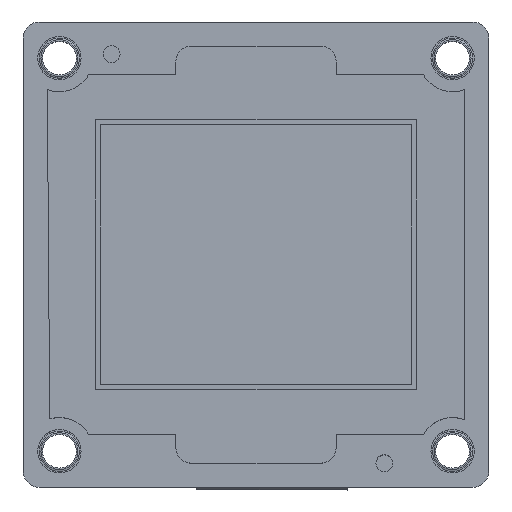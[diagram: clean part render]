
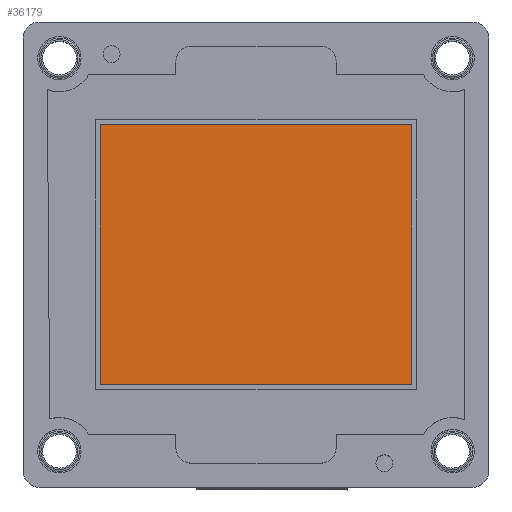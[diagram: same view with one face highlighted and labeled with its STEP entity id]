
A CAD part, top view. The second image highlights one B-rep face of the part: STEP entity #36179.
In plain terms, the highlighted planar face has unit normal (0, 0, 1).
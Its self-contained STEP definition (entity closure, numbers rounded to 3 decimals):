
#3712 = LINE ( 'NONE', #41200, #39362 ) ;
#3973 = DIRECTION ( 'NONE',  ( -1., 0., 0. ) ) ;
#3987 = LINE ( 'NONE', #20370, #8109 ) ;
#4184 = LINE ( 'NONE', #4425, #41056 ) ;
#4425 = CARTESIAN_POINT ( 'NONE',  ( 4.8, 22.6, 7.31 ) ) ;
#7489 = ORIENTED_EDGE ( 'NONE', *, *, #37590, .F. ) ;
#7905 = DIRECTION ( 'NONE',  ( 1., 0., 0. ) ) ;
#8109 = VECTOR ( 'NONE', #49571, 1000. ) ;
#9903 = VECTOR ( 'NONE', #7905, 1000. ) ;
#11915 = DIRECTION ( 'NONE',  ( 0., 1., 0. ) ) ;
#12351 = VERTEX_POINT ( 'NONE', #52470 ) ;
#14496 = CARTESIAN_POINT ( 'NONE',  ( 14.5, 14.5, 7.31 ) ) ;
#20370 = CARTESIAN_POINT ( 'NONE',  ( 24.2, 22.6, 7.31 ) ) ;
#20791 = ORIENTED_EDGE ( 'NONE', *, *, #34405, .F. ) ;
#23012 = VERTEX_POINT ( 'NONE', #43867 ) ;
#24897 = VERTEX_POINT ( 'NONE', #50744 ) ;
#26330 = DIRECTION ( 'NONE',  ( -1., 0., 0. ) ) ;
#28292 = CARTESIAN_POINT ( 'NONE',  ( 24.2, 22.6, 7.31 ) ) ;
#28553 = LINE ( 'NONE', #28292, #9903 ) ;
#30851 = DIRECTION ( 'NONE',  ( 0., 0., -1. ) ) ;
#31338 = EDGE_LOOP ( 'NONE', ( #20791, #36620, #7489, #37461 ) ) ;
#33168 = AXIS2_PLACEMENT_3D ( 'NONE', #14496, #30851, #26330 ) ;
#34405 = EDGE_CURVE ( 'NONE', #12351, #23012, #3987, .T. ) ;
#34611 = VERTEX_POINT ( 'NONE', #37963 ) ;
#34841 = FACE_OUTER_BOUND ( 'NONE', #31338, .T. ) ;
#36179 = ADVANCED_FACE ( 'NONE', ( #34841 ), #51282, .F. ) ;
#36620 = ORIENTED_EDGE ( 'NONE', *, *, #45849, .F. ) ;
#37461 = ORIENTED_EDGE ( 'NONE', *, *, #49070, .F. ) ;
#37590 = EDGE_CURVE ( 'NONE', #24897, #34611, #4184, .T. ) ;
#37963 = CARTESIAN_POINT ( 'NONE',  ( 4.8, 22.6, 7.31 ) ) ;
#39362 = VECTOR ( 'NONE', #3973, 1000. ) ;
#41056 = VECTOR ( 'NONE', #11915, 1000. ) ;
#41200 = CARTESIAN_POINT ( 'NONE',  ( 24.2, 6.4, 7.31 ) ) ;
#43867 = CARTESIAN_POINT ( 'NONE',  ( 24.2, 6.4, 7.31 ) ) ;
#45849 = EDGE_CURVE ( 'NONE', #34611, #12351, #28553, .T. ) ;
#49070 = EDGE_CURVE ( 'NONE', #23012, #24897, #3712, .T. ) ;
#49571 = DIRECTION ( 'NONE',  ( 0., -1., 0. ) ) ;
#50744 = CARTESIAN_POINT ( 'NONE',  ( 4.8, 6.4, 7.31 ) ) ;
#51282 = PLANE ( 'NONE',  #33168 ) ;
#52470 = CARTESIAN_POINT ( 'NONE',  ( 24.2, 22.6, 7.31 ) ) ;
